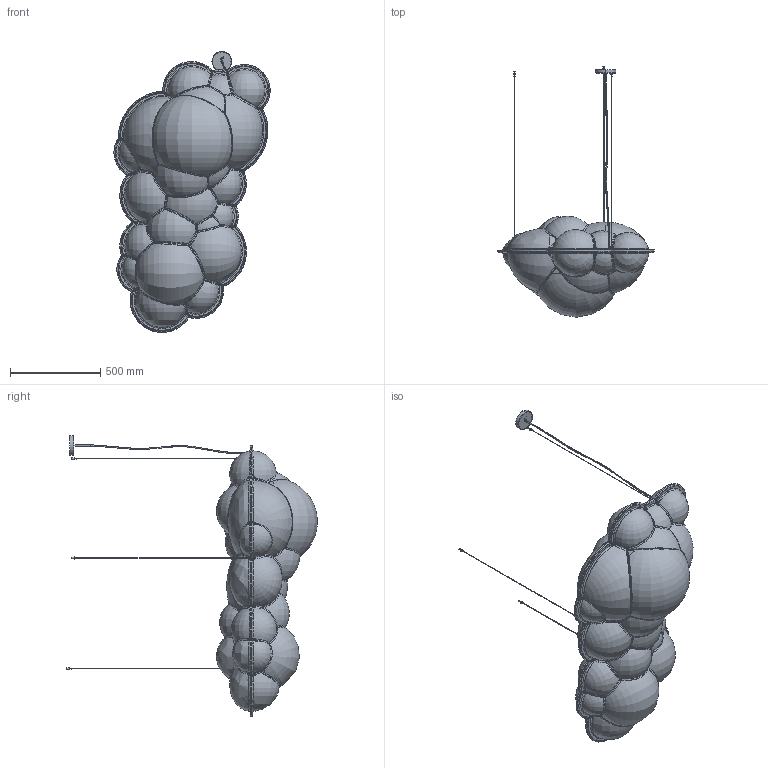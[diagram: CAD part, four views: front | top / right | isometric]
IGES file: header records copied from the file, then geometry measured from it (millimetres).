
Start section: SolidWorks IGES file using analytic representation for surfaces
Global section: file name: N:\- Ingeneria\DISEGNI\PRODOTTI\NUVOLA\800NUVEWW511.IGS; native system: SolidWorks 2016; preprocessor: SolidWorks 2016; author: gpinheiro; date: 170216.142049; units: millimetre
Bounding box: 864.65 x 1388.33 x 1555.35 mm (x, y, z)
Volume: 11054326.5 mm3; surface area: 10490294.6 mm2
Topology: 78 solids, 78 shells, 4154 faces, 11320 edges, 7001 vertices
Faces by surface type: plane 2130, revolution 1857, bspline 167
